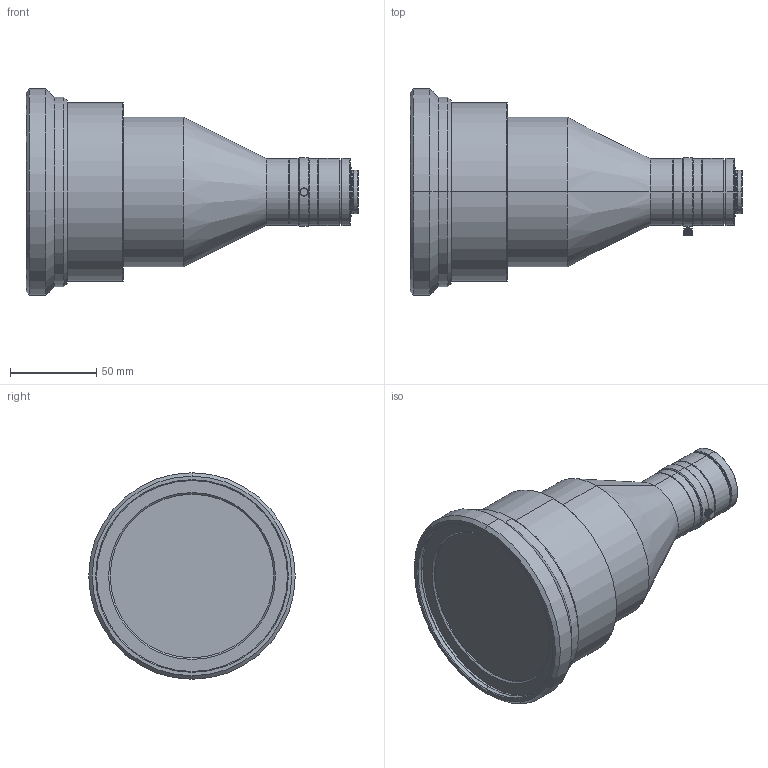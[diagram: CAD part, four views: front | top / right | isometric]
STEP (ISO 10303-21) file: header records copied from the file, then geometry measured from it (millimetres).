
FILE_DESCRIPTION (( 'STEP AP203' ), '1' );
FILE_NAME ('VS-TCM01-180_S.STEP', '2013-12-24T10:32:01', ( '設計用PC' ), ( '株式会社 ヴイ・エス・テクノロジー' ), 'SwSTEP 2.0', 'SolidWorks 2012', '' );
FILE_SCHEMA (( 'CONFIG_CONTROL_DESIGN' ));
Length unit declared in the file: millimetre
Products named in the file (3): VS-TCM01-180_S; L5028-M22_ロックビス(I用); VS-TCM01-180_S_本体
Assembly tree (2 placements, depth 2):
  VS-TCM01-180_S
    VS-TCM01-180_S_本体
    L5028-M22_ロックビス(I用)
Bounding box: 192.97 x 120 x 120 mm (x, y, z)
Volume: 894022.7 mm3; surface area: 65658 mm2
Topology: 2 solids, 2 shells, 271 faces, 693 edges, 436 vertices
Faces by surface type: cone 106, cylinder 99, plane 66
Entity records: 8572 total; most frequent: CARTESIAN_POINT 1685, DIRECTION 1429, ORIENTED_EDGE 1370, EDGE_CURVE 685, AXIS2_PLACEMENT_3D 564, VERTEX_POINT 436, LINE 301, VECTOR 301
